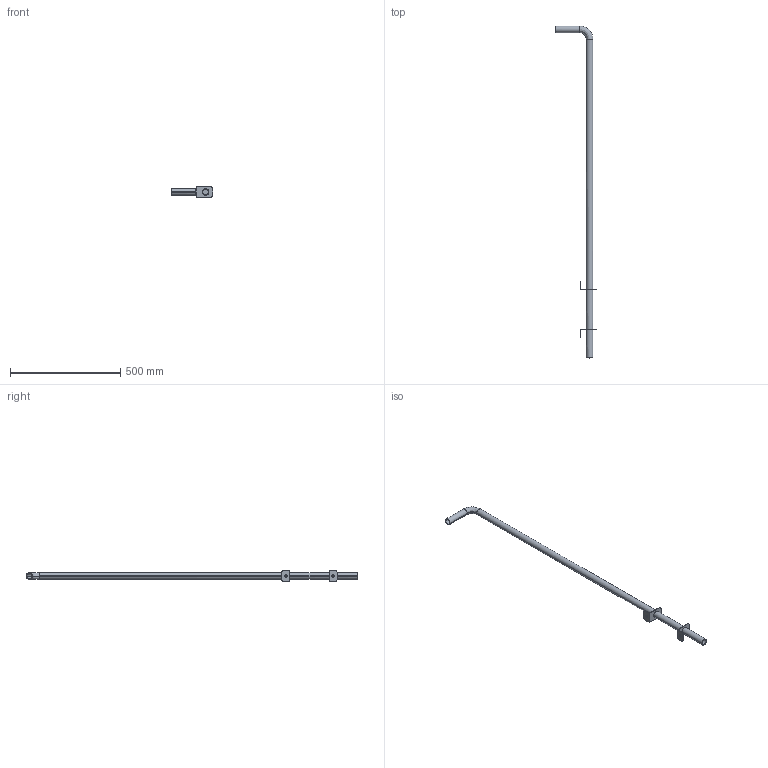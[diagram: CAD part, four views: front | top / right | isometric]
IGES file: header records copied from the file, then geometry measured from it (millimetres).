
Start section:  PTC IGES file: 52332158.igs
Global section: file name: 52332158.igs; native system: Creo Parametric by PTC Inc.; preprocessor: 2022162; author: wep; organization: Unknown; date: 20241218.113303; units: millimetre
Bounding box: 187 x 1502.5 x 50 mm (x, y, z)
Surface area: 301597.6 mm2 (no closed solid volume)
Topology: 0 solids, 0 shells, 54 faces, 248 edges, 248 vertices
Faces by surface type: revolution 32, bspline 22
